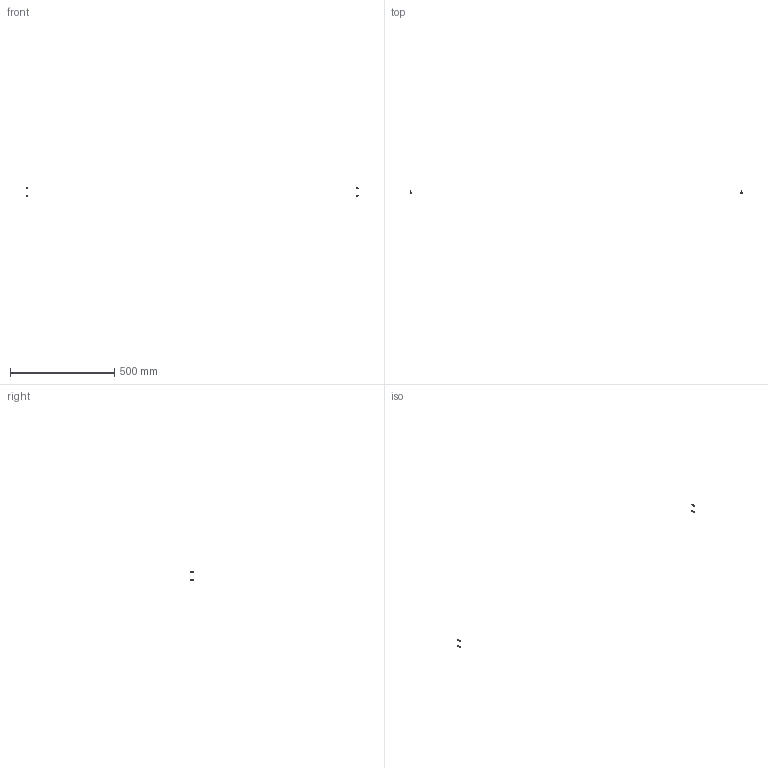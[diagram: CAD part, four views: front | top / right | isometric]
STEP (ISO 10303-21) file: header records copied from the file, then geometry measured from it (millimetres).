
FILE_DESCRIPTION(/* description */ (''),/* implementation_level */ '2;1');
FILE_NAME(/* name */ '3.frame-top#3.3#CB3-10',/* time_stamp */ '2014-12-01T20:12:09+01:00',/* author */ (''),/* organization */ (''),/* preprocessor_version */ 'ST-DEVELOPER v14',/* originating_system */ '',/* authorisation */ '');
FILE_SCHEMA (('AUTOMOTIVE_DESIGN'));
Length unit declared in the file: millimetre
Products named in the file (2): Document; screw DIN912-like, M3x10
Assembly tree (2 placements, depth 2):
  Document
    screw DIN912-like, M3x10  x2
Bounding box: 1595.48 x 13 x 42.5 mm (x, y, z)
Volume: 529.8 mm3; surface area: 807.4 mm2
Topology: 4 solids, 4 shells, 100 faces, 224 edges, 132 vertices
Faces by surface type: plane 60, bspline 40
Entity records: 4125 total; most frequent: CARTESIAN_POINT 1889, B_SPLINE_CURVE_WITH_KNOTS 378, ORIENTED_EDGE 324, PCURVE 324, DEFINITIONAL_REPRESENTATION 324, SURFACE_CURVE 162, EDGE_CURVE 162, VERTEX_POINT 99
